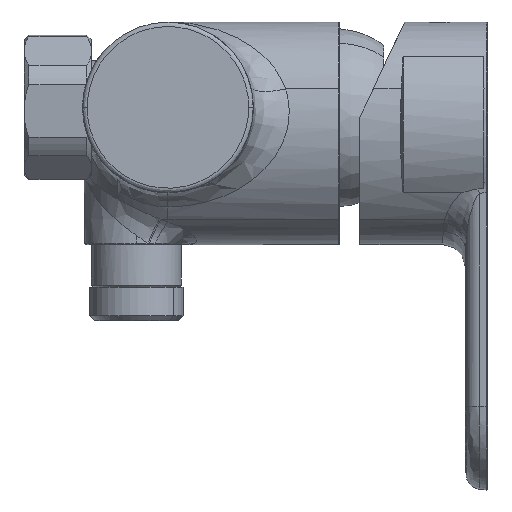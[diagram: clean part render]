
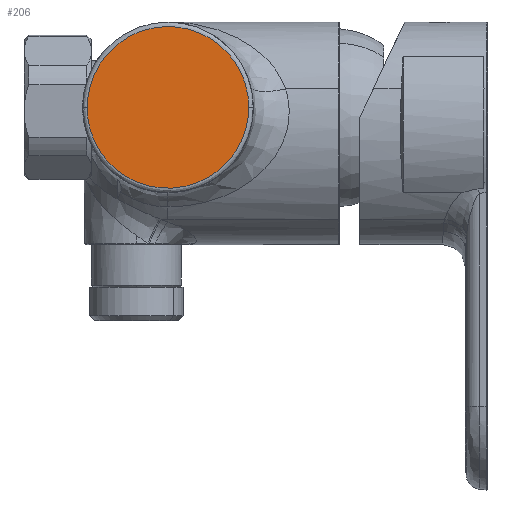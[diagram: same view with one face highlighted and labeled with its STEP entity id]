
A CAD part, left-side view. The second image highlights one B-rep face of the part: STEP entity #206.
In plain terms, the highlighted planar face has unit normal (-1, 0, 0).
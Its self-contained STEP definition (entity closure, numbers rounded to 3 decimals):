
#206 = ADVANCED_FACE ( 'NONE', ( #2175 ), #7175, .F. ) ;
#1495 = CARTESIAN_POINT ( 'NONE',  ( -225.833, -7.621, 10.782 ) ) ;
#2175 = FACE_OUTER_BOUND ( 'NONE', #15318, .T. ) ;
#2241 = EDGE_CURVE ( 'NONE', #9186, #9020, #7078, .T. ) ;
#2284 = ORIENTED_EDGE ( 'NONE', *, *, #6680, .F. ) ;
#2726 = CARTESIAN_POINT ( 'NONE',  ( -225.833, 28.379, 46.782 ) ) ;
#3057 = AXIS2_PLACEMENT_3D ( 'NONE', #7257, #12327, #8488 ) ;
#3574 = CARTESIAN_POINT ( 'NONE',  ( -225.833, 28.379, 10.782 ) ) ;
#4172 = CARTESIAN_POINT ( 'NONE',  ( -225.833, 28.379, -25.218 ) ) ;
#6471 = CARTESIAN_POINT ( 'NONE',  ( -225.833, 28.379, 10.782 ) ) ;
#6680 = EDGE_CURVE ( 'NONE', #9020, #9186, #12104, .T. ) ;
#7078 =( BOUNDED_CURVE ( )  B_SPLINE_CURVE ( 3, ( #12798, #2726, #14012, #1495 ),
 .UNSPECIFIED., .F., .T. ) 
 B_SPLINE_CURVE_WITH_KNOTS ( ( 4, 4 ),
 ( 0.75, 1.25 ),
 .UNSPECIFIED. ) 
 CURVE ( )  GEOMETRIC_REPRESENTATION_ITEM ( )  RATIONAL_B_SPLINE_CURVE ( ( 1., 0.333, 0.333, 1. ) ) 
 REPRESENTATION_ITEM ( '' )  );
#7175 = PLANE ( 'NONE',  #3057 ) ;
#7257 = CARTESIAN_POINT ( 'NONE',  ( -225.833, 10.379, 12.509 ) ) ;
#8488 = DIRECTION ( 'NONE',  ( 0., 0., -1. ) ) ;
#9020 = VERTEX_POINT ( 'NONE', #12265 ) ;
#9186 = VERTEX_POINT ( 'NONE', #3574 ) ;
#10908 = ORIENTED_EDGE ( 'NONE', *, *, #2241, .F. ) ;
#11641 = CARTESIAN_POINT ( 'NONE',  ( -225.833, -7.621, -25.218 ) ) ;
#12104 =( BOUNDED_CURVE ( )  B_SPLINE_CURVE ( 3, ( #15132, #11641, #4172, #6471 ),
 .UNSPECIFIED., .F., .T. ) 
 B_SPLINE_CURVE_WITH_KNOTS ( ( 4, 4 ),
 ( 0.25, 0.75 ),
 .UNSPECIFIED. ) 
 CURVE ( )  GEOMETRIC_REPRESENTATION_ITEM ( )  RATIONAL_B_SPLINE_CURVE ( ( 1., 0.333, 0.333, 1. ) ) 
 REPRESENTATION_ITEM ( '' )  );
#12265 = CARTESIAN_POINT ( 'NONE',  ( -225.833, -7.621, 10.782 ) ) ;
#12327 = DIRECTION ( 'NONE',  ( 1., 0., 0. ) ) ;
#12798 = CARTESIAN_POINT ( 'NONE',  ( -225.833, 28.379, 10.782 ) ) ;
#14012 = CARTESIAN_POINT ( 'NONE',  ( -225.833, -7.621, 46.782 ) ) ;
#15132 = CARTESIAN_POINT ( 'NONE',  ( -225.833, -7.621, 10.782 ) ) ;
#15318 = EDGE_LOOP ( 'NONE', ( #10908, #2284 ) ) ;
